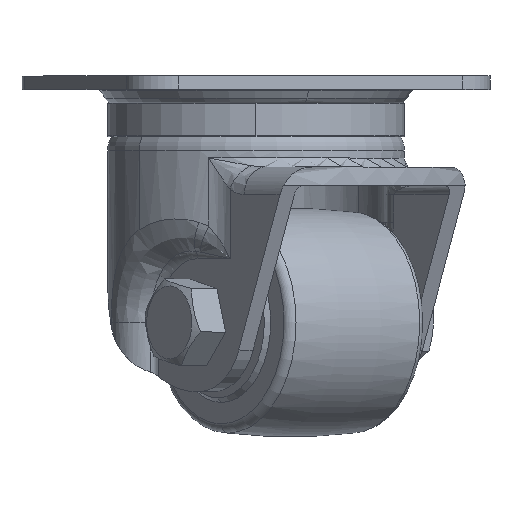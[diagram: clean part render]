
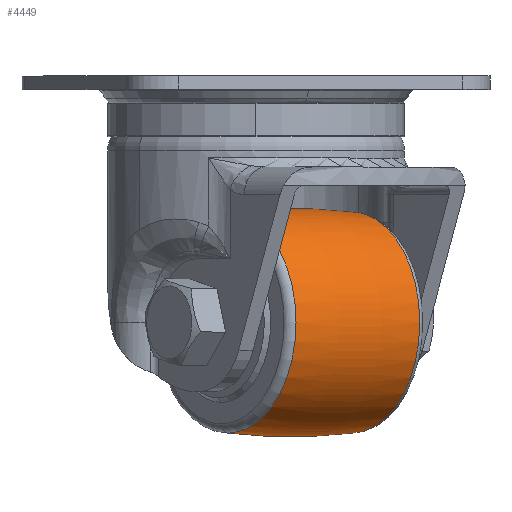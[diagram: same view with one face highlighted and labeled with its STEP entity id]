
A CAD part, top view. The second image highlights one B-rep face of the part: STEP entity #4449.
In plain terms, the highlighted toroidal (fillet/blend) face has major radius 156 mm and minor radius 181 mm.
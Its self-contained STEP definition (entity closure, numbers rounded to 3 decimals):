
#269 = VERTEX_POINT ( 'NONE', #6079 ) ;
#511 = CARTESIAN_POINT ( 'NONE',  ( 0., -17.19, 0. ) ) ;
#533 = DIRECTION ( 'NONE',  ( 0., 0., 1. ) ) ;
#653 = CIRCLE ( 'NONE', #8532, 24.182 ) ;
#825 = CARTESIAN_POINT ( 'NONE',  ( 0., 17.19, 24.182 ) ) ;
#1142 = CARTESIAN_POINT ( 'NONE',  ( 0., -17.19, -24.182 ) ) ;
#1170 = CARTESIAN_POINT ( 'NONE',  ( 0., 17.19, 0. ) ) ;
#1192 = DIRECTION ( 'NONE',  ( 0., 0., 1. ) ) ;
#1409 = CIRCLE ( 'NONE', #8074, 181. ) ;
#1575 = ORIENTED_EDGE ( 'NONE', *, *, #3451, .F. ) ;
#1702 = ORIENTED_EDGE ( 'NONE', *, *, #4734, .T. ) ;
#1858 = DIRECTION ( 'NONE',  ( 0., 0., 1. ) ) ;
#1864 = VERTEX_POINT ( 'NONE', #7110 ) ;
#2174 = FACE_OUTER_BOUND ( 'NONE', #5909, .T. ) ;
#2890 = DIRECTION ( 'NONE',  ( 1., 0., 0. ) ) ;
#3451 = EDGE_CURVE ( 'NONE', #4351, #1864, #4430, .T. ) ;
#3537 = TOROIDAL_SURFACE ( 'NONE', #8612, -156., 181. ) ;
#3665 = AXIS2_PLACEMENT_3D ( 'NONE', #1170, #5897, #1858 ) ;
#3957 = ORIENTED_EDGE ( 'NONE', *, *, #6475, .F. ) ;
#4186 = ORIENTED_EDGE ( 'NONE', *, *, #5302, .T. ) ;
#4351 = VERTEX_POINT ( 'NONE', #825 ) ;
#4430 = CIRCLE ( 'NONE', #3665, 24.182 ) ;
#4449 = ADVANCED_FACE ( 'NONE', ( #2174 ), #3537, .T. ) ;
#4590 = DIRECTION ( 'NONE',  ( -1., 0., 0. ) ) ;
#4712 = CIRCLE ( 'NONE', #7649, 181. ) ;
#4734 = EDGE_CURVE ( 'NONE', #269, #5660, #653, .T. ) ;
#4995 = CARTESIAN_POINT ( 'NONE',  ( 0., 0., 0. ) ) ;
#5253 = DIRECTION ( 'NONE',  ( 0., 1., 0. ) ) ;
#5302 = EDGE_CURVE ( 'NONE', #5660, #1864, #4712, .T. ) ;
#5660 = VERTEX_POINT ( 'NONE', #1142 ) ;
#5897 = DIRECTION ( 'NONE',  ( 0., 1., 0. ) ) ;
#5909 = EDGE_LOOP ( 'NONE', ( #1702, #4186, #1575, #3957 ) ) ;
#6079 = CARTESIAN_POINT ( 'NONE',  ( 0., -17.19, 24.182 ) ) ;
#6475 = EDGE_CURVE ( 'NONE', #269, #4351, #1409, .T. ) ;
#6938 = CARTESIAN_POINT ( 'NONE',  ( 0., 0., 156. ) ) ;
#7026 = DIRECTION ( 'NONE',  ( 0., 0., 1. ) ) ;
#7110 = CARTESIAN_POINT ( 'NONE',  ( 0., 17.19, -24.182 ) ) ;
#7624 = DIRECTION ( 'NONE',  ( 0., 0., -1. ) ) ;
#7649 = AXIS2_PLACEMENT_3D ( 'NONE', #6938, #2890, #7624 ) ;
#8074 = AXIS2_PLACEMENT_3D ( 'NONE', #8638, #4590, #533 ) ;
#8358 = DIRECTION ( 'NONE',  ( 0., 1., 0. ) ) ;
#8532 = AXIS2_PLACEMENT_3D ( 'NONE', #511, #5253, #1192 ) ;
#8612 = AXIS2_PLACEMENT_3D ( 'NONE', #4995, #8358, #7026 ) ;
#8638 = CARTESIAN_POINT ( 'NONE',  ( 0., 0., -156. ) ) ;
